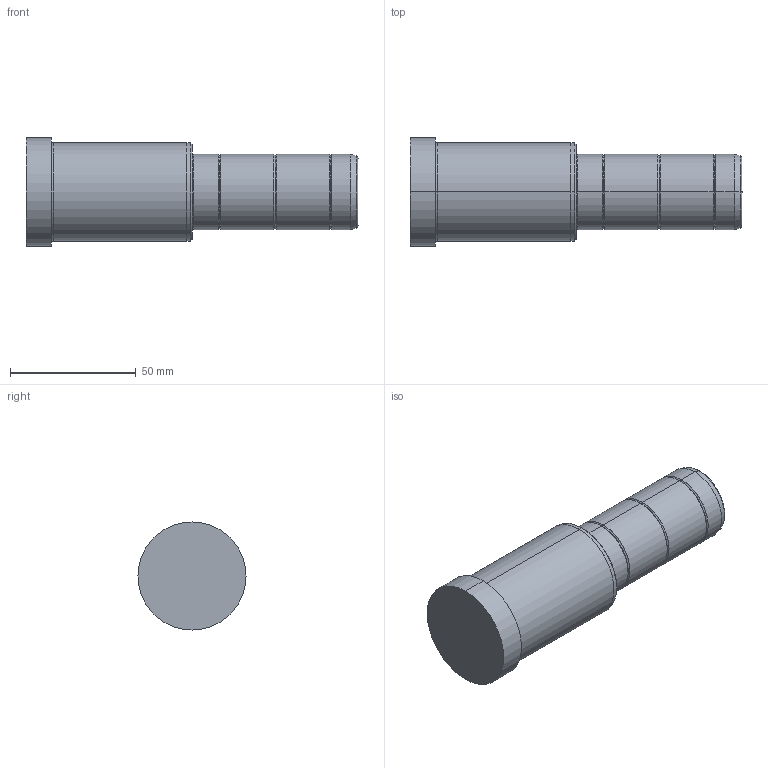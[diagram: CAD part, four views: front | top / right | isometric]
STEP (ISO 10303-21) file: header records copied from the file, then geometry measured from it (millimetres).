
FILE_DESCRIPTION( ( 'STEP AP203' ), '1' );
FILE_NAME( 'C:/Projects/D02 - 30x66x66.step', '2002-12-31T22:47:38', ( ' ' ), ( ' ' ), 'XStep 1.0', ' ', ' ' );
FILE_SCHEMA( ( 'CONFIG_CONTROL_DESIGN' ) );
Length unit declared in the file: metre
Products named in the file (1): 1
Bounding box: 132 x 43 x 43 mm (x, y, z)
Volume: 127895.5 mm3; surface area: 17346.3 mm2
Topology: 1 solids, 1 shells, 42 faces, 82 edges, 46 vertices
Faces by surface type: bspline 22, revolution 20
Entity records: 1325 total; most frequent: CARTESIAN_POINT 517, ORIENTED_EDGE 164, DIRECTION 134, EDGE_CURVE 82, AXIS2_PLACEMENT_3D 47, EDGE_LOOP 46, VERTEX_POINT 46, CIRCLE 46
